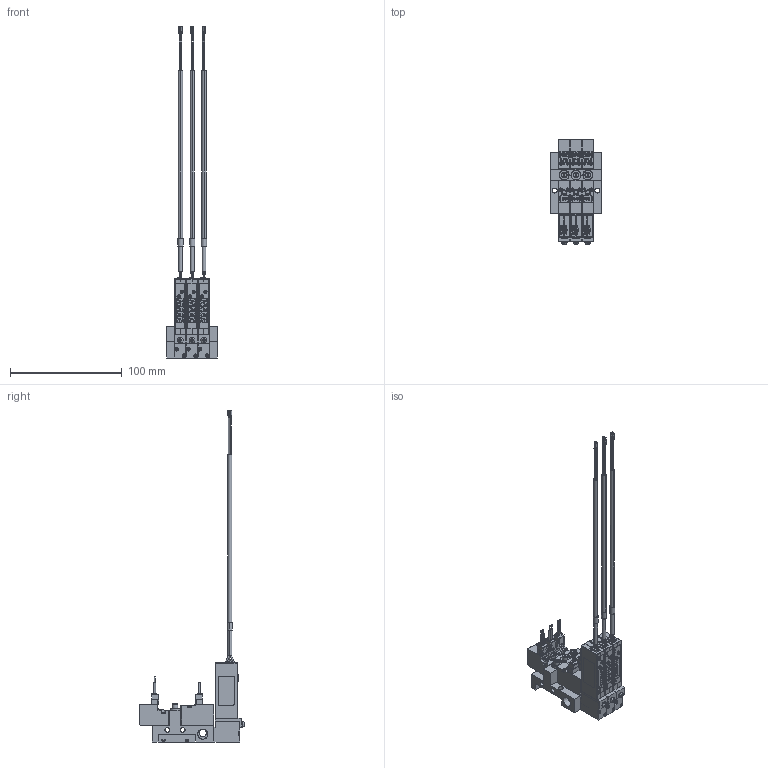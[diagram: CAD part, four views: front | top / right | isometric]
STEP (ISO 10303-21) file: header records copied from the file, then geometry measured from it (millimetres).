
FILE_DESCRIPTION(('STEP AP203'),'1');
FILE_NAME('2-NO(NC)-4EZ-M03-V9.stp','2025-05-09T00:48:26',(' '),(' '),'Spatial InterOp 3D',' ',' ');
FILE_SCHEMA(('CONFIG_CONTROL_DESIGN'));
Length unit declared in the file: millimetre
Products named in the file (89): PV1※2-NO(NC)-4EZ-M03-V9; BODY; PLATE; NEEDLE; BOLT; SOLENOID VALVE VOLTAGE PV; 42; 45; 48; 51; BRAKET(MPS-V9  PV용)NEW; BRAKET; MPS-V9AC.ics; __1; MPS-V9AC; MSBR-29_1; MSBR-28_1; MSBR-27_1; MSBR-26_1; MSBR-25_1; MSBR-24_1; MSBR-21_1; MSBR-7_1; MSBR-4_1; MSBR-1_1; SOLENOID VALVE VOLTAGE PV-NC2
Assembly tree (88 placements, depth 5):
  PV1※2-NO(NC)-4EZ-M03-V9
    BODY
    PLATE
    PLATE
    NEEDLE
    BOLT
    BOLT
    BOLT
    BOLT
    BOLT
    BOLT
    SOLENOID VALVE VOLTAGE PV
      42
      45
      48
      51
    NEEDLE
    SOLENOID VALVE VOLTAGE PV
      42
      45
      48
      51
    NEEDLE
    SOLENOID VALVE VOLTAGE PV
      42
      45
      48
      51
    PLATE
    BOLT
    BOLT
    BOLT
    BRAKET(MPS-V9  PV용)NEW
      BRAKET
      BOLT
      BOLT
      MPS-V9AC.ics
        __1
        MPS-V9AC
          MSBR-29_1
          MSBR-28_1
          MSBR-27_1
          MSBR-26_1
          MSBR-25_1
          MSBR-24_1
          MSBR-21_1
          MSBR-7_1
          MSBR-4_1
          MSBR-4_1
          MSBR-1_1
    BRAKET(MPS-V9  PV용)NEW
      BRAKET
      BOLT
      BOLT
      MPS-V9AC.ics
        __1
        MPS-V9AC
          MSBR-29_1
          MSBR-28_1
          MSBR-27_1
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Bounding box: 45 x 94.29 x 297.25 mm (x, y, z)
Volume: 88462.5 mm3; surface area: 74815.6 mm2
Topology: 73 solids, 100 shells, 3688 faces, 10019 edges, 6743 vertices
Faces by surface type: plane 2875, cylinder 622, torus 69, bspline 45, cone 35, extrusion 30, sphere 12
Full cylindrical faces by diameter (mm): 1.4 x6, 2 x9, 2.3 x6, 2.5 x3, 3 x21, 3.5 x3, 4.2 x8, 4.5 x2, 5 x6, 6.5 x1, 8.797 x2, 9 x3
Entity records: 121032 total; most frequent: CARTESIAN_POINT 23261, ORIENTED_EDGE 19364, DIRECTION 18755, EDGE_CURVE 9796, VECTOR 7635, LINE 7605, VERTEX_POINT 6670, AXIS2_PLACEMENT_3D 5560
